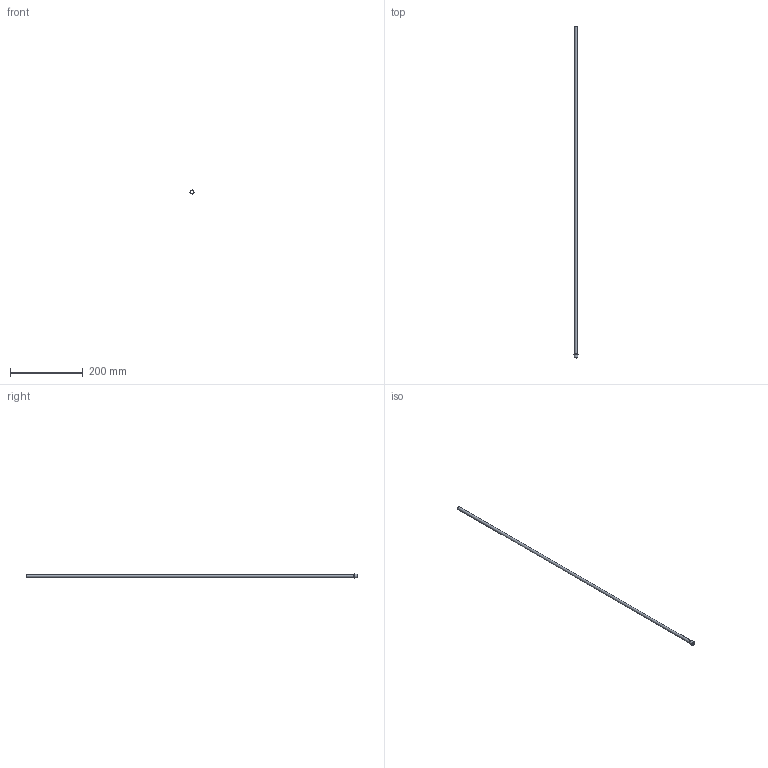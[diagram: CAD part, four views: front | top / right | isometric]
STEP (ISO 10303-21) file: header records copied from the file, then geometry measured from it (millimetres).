
FILE_DESCRIPTION(/* description */ (''),/* implementation_level */ '2;1');
FILE_NAME(/* name */ 'C:/Users/drich/Desktop/JHF312T-36 v1.step',/* time_stamp */ '2020-01-02T20:07:13-06:00',/* author */ (''),/* organization */ (''),/* preprocessor_version */ 'ST-DEVELOPER v18',/* originating_system */ 'Autodesk Translation Framework v8.12.0.6',/* authorisation */ '');
FILE_SCHEMA (('AUTOMOTIVE_DESIGN { 1 0 10303 214 3 1 1 }'));
Length unit declared in the file: inch
Products named in the file (1): JHF312T-36
Bounding box: 11.15 x 914.4 x 11.15 mm (x, y, z)
Volume: 7182.2 mm3; surface area: 43985.7 mm2
Topology: 1 solids, 1 shells, 10 faces, 24 edges, 18 vertices
Faces by surface type: cylinder 4, plane 4, cone 1, torus 1
Full cylindrical faces by diameter (mm): 7.315 x1, 7.925 x1, 11.011 x1, 11.151 x1
Entity records: 354 total; most frequent: DIRECTION 65, CARTESIAN_POINT 53, ORIENTED_EDGE 48, AXIS2_PLACEMENT_3D 30, EDGE_CURVE 24, CIRCLE 19, VERTEX_POINT 18, EDGE_LOOP 14
